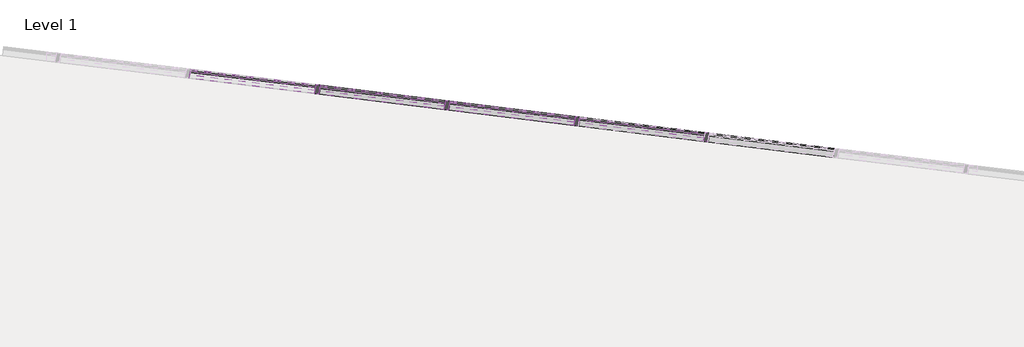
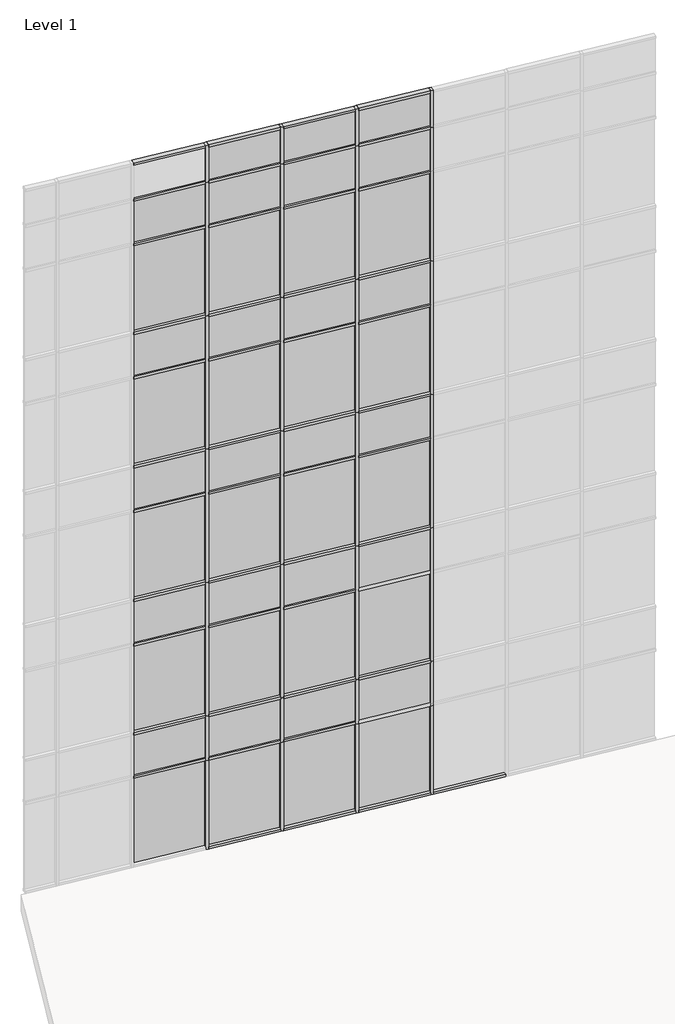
# One storey, part 16 of 23: 74 members, 43 plates.
"""IFC4 building model written with IfcOpenShell, lengths in millimetres."""

from ifc_helpers import new_model, si_unit, origin, place, context, project, spatial, transform, mapped, element, save
from components import member_2b49869a, member_f92b8aa2, member_810865a4, member_f0fea5a5, member_6d5c3e5e, member_9764dd38, system_panel_glazed_14c75400, system_panel_solid_5dfe6f83, system_panel_solid_e25e2004, system_panel_solid_b7551183

model = new_model("IFC4")

# Units and contexts
model_context = context("Model", 3, world=origin())
ifc_project = project(units=[si_unit("LENGTHUNIT", "METRE", prefix="MILLI")], contexts=[model_context])

# Site, building, storey
site = spatial("IfcSite", under=ifc_project)
building = spatial("IfcBuilding", under=site)
storey = spatial("IfcBuildingStorey", under=building, Name="Level 1", Elevation=0.0)

# Members
placement = place(None, origin())
member_shape = member_2b49869a(model_context)
element("IfcMember", 1, ObjectType="Rectangular Mullion : 2.5\" x 5\" rectangular", at=placement, inside=storey, context=model_context, shape_type="MappedRepresentation", body=[
    mapped(member_shape, transform((-20221.8467741, 14354.2917535, 2438.4), x_axis=(0.9925461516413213, -0.12186934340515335, 0.0), y_axis=(-0.12186934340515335, -0.9925461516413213, 0.0), z_axis=(0.0, 0.0, -1.0))),
])
element("IfcMember", 2, ObjectType="Rectangular Mullion : 2.5\" x 5\" rectangular", at=placement, inside=storey, context=model_context, shape_type="MappedRepresentation", body=[
    mapped(member_shape, transform((-22037.0151762, 14577.1664087, 2438.4), x_axis=(0.9925461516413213, -0.12186934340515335, 0.0), y_axis=(-0.12186934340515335, -0.9925461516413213, 0.0), z_axis=(0.0, 0.0, -1.0))),
])
element("IfcMember", 3, ObjectType="Rectangular Mullion : 2.5\" x 5\" rectangular", at=placement, inside=storey, context=model_context, shape_type="MappedRepresentation", body=[
    mapped(member_shape, transform((-23852.1835783, 14800.0410639, 2438.4), x_axis=(0.9925461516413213, -0.12186934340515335, 0.0), y_axis=(-0.12186934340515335, -0.9925461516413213, 0.0), z_axis=(0.0, 0.0, -1.0))),
])
element("IfcMember", 4, ObjectType="Rectangular Mullion : 2.5\" x 5\" rectangular", at=placement, inside=storey, context=model_context, shape_type="MappedRepresentation", body=[
    mapped(member_shape, transform((-25667.3519804, 15022.9157192, 2438.4), x_axis=(0.9925461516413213, -0.12186934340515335, 0.0), y_axis=(-0.12186934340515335, -0.9925461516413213, 0.0), z_axis=(0.0, 0.0, -1.0))),
])
member_2_shape = member_f92b8aa2(model_context)
element("IfcMember", 5, ObjectType="Rectangular Mullion : 2.5\" x 5\" rectangular", at=placement, inside=storey, context=model_context, shape_type="MappedRepresentation", body=[
    mapped(member_2_shape, transform((-20221.8467741, 14354.2917535, 18288.0), x_axis=(0.9925461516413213, -0.12186934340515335, 0.0), y_axis=(-0.12186934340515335, -0.9925461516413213, 0.0), z_axis=(0.0, 0.0, -1.0))),
])
element("IfcMember", 6, ObjectType="Rectangular Mullion : 2.5\" x 5\" rectangular", at=placement, inside=storey, context=model_context, shape_type="MappedRepresentation", body=[
    mapped(member_2_shape, transform((-22037.0151762, 14577.1664087, 18288.0), x_axis=(0.9925461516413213, -0.12186934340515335, 0.0), y_axis=(-0.12186934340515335, -0.9925461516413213, 0.0), z_axis=(0.0, 0.0, -1.0))),
])
element("IfcMember", 7, ObjectType="Rectangular Mullion : 2.5\" x 5\" rectangular", at=placement, inside=storey, context=model_context, shape_type="MappedRepresentation", body=[
    mapped(member_2_shape, transform((-23852.1835783, 14800.0410639, 18288.0), x_axis=(0.9925461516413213, -0.12186934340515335, 0.0), y_axis=(-0.12186934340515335, -0.9925461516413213, 0.0), z_axis=(0.0, 0.0, -1.0))),
])
element("IfcMember", 8, ObjectType="Rectangular Mullion : 2.5\" x 5\" rectangular", at=placement, inside=storey, context=model_context, shape_type="MappedRepresentation", body=[
    mapped(member_2_shape, transform((-25667.3519804, 15022.9157192, 18288.0), x_axis=(0.9925461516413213, -0.12186934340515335, 0.0), y_axis=(-0.12186934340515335, -0.9925461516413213, 0.0), z_axis=(0.0, 0.0, -1.0))),
])
member_3_shape = member_810865a4(model_context)
element("IfcMember", 9, ObjectType="Rectangular Mullion : 2.5\" x 5\" rectangular", at=placement, inside=storey, context=model_context, shape_type="MappedRepresentation", body=[
    mapped(member_3_shape, transform((-20221.8467741, 14354.2917535, 14630.4), x_axis=(0.9925461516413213, -0.12186934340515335, 0.0), y_axis=(-0.12186934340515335, -0.9925461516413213, 0.0), z_axis=(0.0, 0.0, -1.0))),
])
element("IfcMember", 10, ObjectType="Rectangular Mullion : 2.5\" x 5\" rectangular", at=placement, inside=storey, context=model_context, shape_type="MappedRepresentation", body=[
    mapped(member_3_shape, transform((-20221.8467741, 14354.2917535, 10972.8), x_axis=(0.9925461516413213, -0.12186934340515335, 0.0), y_axis=(-0.12186934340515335, -0.9925461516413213, 0.0), z_axis=(0.0, 0.0, -1.0))),
])
element("IfcMember", 11, ObjectType="Rectangular Mullion : 2.5\" x 5\" rectangular", at=placement, inside=storey, context=model_context, shape_type="MappedRepresentation", body=[
    mapped(member_3_shape, transform((-20221.8467741, 14354.2917535, 7315.2), x_axis=(0.9925461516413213, -0.12186934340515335, 0.0), y_axis=(-0.12186934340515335, -0.9925461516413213, 0.0), z_axis=(0.0, 0.0, -1.0))),
])
element("IfcMember", 12, ObjectType="Rectangular Mullion : 2.5\" x 5\" rectangular", at=placement, inside=storey, context=model_context, shape_type="MappedRepresentation", body=[
    mapped(member_3_shape, transform((-20221.8467741, 14354.2917535, 3657.6), x_axis=(0.9925461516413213, -0.12186934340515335, 0.0), y_axis=(-0.12186934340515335, -0.9925461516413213, 0.0), z_axis=(0.0, 0.0, -1.0))),
])
element("IfcMember", 13, ObjectType="Rectangular Mullion : 2.5\" x 5\" rectangular", at=placement, inside=storey, context=model_context, shape_type="MappedRepresentation", body=[
    mapped(member_3_shape, transform((-22037.0151762, 14577.1664087, 14630.4), x_axis=(0.9925461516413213, -0.12186934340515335, 0.0), y_axis=(-0.12186934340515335, -0.9925461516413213, 0.0), z_axis=(0.0, 0.0, -1.0))),
])
element("IfcMember", 14, ObjectType="Rectangular Mullion : 2.5\" x 5\" rectangular", at=placement, inside=storey, context=model_context, shape_type="MappedRepresentation", body=[
    mapped(member_3_shape, transform((-22037.0151762, 14577.1664087, 10972.8), x_axis=(0.9925461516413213, -0.12186934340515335, 0.0), y_axis=(-0.12186934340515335, -0.9925461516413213, 0.0), z_axis=(0.0, 0.0, -1.0))),
])
element("IfcMember", 15, ObjectType="Rectangular Mullion : 2.5\" x 5\" rectangular", at=placement, inside=storey, context=model_context, shape_type="MappedRepresentation", body=[
    mapped(member_3_shape, transform((-22037.0151762, 14577.1664087, 7315.2), x_axis=(0.9925461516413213, -0.12186934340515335, 0.0), y_axis=(-0.12186934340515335, -0.9925461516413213, 0.0), z_axis=(0.0, 0.0, -1.0))),
])
element("IfcMember", 16, ObjectType="Rectangular Mullion : 2.5\" x 5\" rectangular", at=placement, inside=storey, context=model_context, shape_type="MappedRepresentation", body=[
    mapped(member_3_shape, transform((-22037.0151762, 14577.1664087, 3657.6), x_axis=(0.9925461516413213, -0.12186934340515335, 0.0), y_axis=(-0.12186934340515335, -0.9925461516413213, 0.0), z_axis=(0.0, 0.0, -1.0))),
])
element("IfcMember", 17, ObjectType="Rectangular Mullion : 2.5\" x 5\" rectangular", at=placement, inside=storey, context=model_context, shape_type="MappedRepresentation", body=[
    mapped(member_3_shape, transform((-23852.1835783, 14800.0410639, 14630.4), x_axis=(0.9925461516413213, -0.12186934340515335, 0.0), y_axis=(-0.12186934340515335, -0.9925461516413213, 0.0), z_axis=(0.0, 0.0, -1.0))),
])
element("IfcMember", 18, ObjectType="Rectangular Mullion : 2.5\" x 5\" rectangular", at=placement, inside=storey, context=model_context, shape_type="MappedRepresentation", body=[
    mapped(member_3_shape, transform((-23852.1835783, 14800.0410639, 10972.8), x_axis=(0.9925461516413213, -0.12186934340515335, 0.0), y_axis=(-0.12186934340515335, -0.9925461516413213, 0.0), z_axis=(0.0, 0.0, -1.0))),
])
element("IfcMember", 19, ObjectType="Rectangular Mullion : 2.5\" x 5\" rectangular", at=placement, inside=storey, context=model_context, shape_type="MappedRepresentation", body=[
    mapped(member_3_shape, transform((-23852.1835783, 14800.0410639, 7315.2), x_axis=(0.9925461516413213, -0.12186934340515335, 0.0), y_axis=(-0.12186934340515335, -0.9925461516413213, 0.0), z_axis=(0.0, 0.0, -1.0))),
])
element("IfcMember", 20, ObjectType="Rectangular Mullion : 2.5\" x 5\" rectangular", at=placement, inside=storey, context=model_context, shape_type="MappedRepresentation", body=[
    mapped(member_3_shape, transform((-23852.1835783, 14800.0410639, 3657.6), x_axis=(0.9925461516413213, -0.12186934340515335, 0.0), y_axis=(-0.12186934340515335, -0.9925461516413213, 0.0), z_axis=(0.0, 0.0, -1.0))),
])
element("IfcMember", 21, ObjectType="Rectangular Mullion : 2.5\" x 5\" rectangular", at=placement, inside=storey, context=model_context, shape_type="MappedRepresentation", body=[
    mapped(member_3_shape, transform((-25667.3519804, 15022.9157192, 14630.4), x_axis=(0.9925461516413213, -0.12186934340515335, 0.0), y_axis=(-0.12186934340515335, -0.9925461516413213, 0.0), z_axis=(0.0, 0.0, -1.0))),
])
element("IfcMember", 22, ObjectType="Rectangular Mullion : 2.5\" x 5\" rectangular", at=placement, inside=storey, context=model_context, shape_type="MappedRepresentation", body=[
    mapped(member_3_shape, transform((-25667.3519804, 15022.9157192, 10972.8), x_axis=(0.9925461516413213, -0.12186934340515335, 0.0), y_axis=(-0.12186934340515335, -0.9925461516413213, 0.0), z_axis=(0.0, 0.0, -1.0))),
])
element("IfcMember", 23, ObjectType="Rectangular Mullion : 2.5\" x 5\" rectangular", at=placement, inside=storey, context=model_context, shape_type="MappedRepresentation", body=[
    mapped(member_3_shape, transform((-25667.3519804, 15022.9157192, 7315.2), x_axis=(0.9925461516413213, -0.12186934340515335, 0.0), y_axis=(-0.12186934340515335, -0.9925461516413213, 0.0), z_axis=(0.0, 0.0, -1.0))),
])
element("IfcMember", 24, ObjectType="Rectangular Mullion : 2.5\" x 5\" rectangular", at=placement, inside=storey, context=model_context, shape_type="MappedRepresentation", body=[
    mapped(member_3_shape, transform((-25667.3519804, 15022.9157192, 3657.6), x_axis=(0.9925461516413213, -0.12186934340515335, 0.0), y_axis=(-0.12186934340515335, -0.9925461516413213, 0.0), z_axis=(0.0, 0.0, -1.0))),
])
member_4_shape = member_f0fea5a5(model_context)
element("IfcMember", 25, ObjectType="Rectangular Mullion : 2.5\" x 5\" rectangular", at=placement, inside=storey, context=model_context, shape_type="MappedRepresentation", body=[
    mapped(member_4_shape, transform((-22037.0151762, 14577.1664087, 0.0), x_axis=(0.9925461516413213, -0.12186934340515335, 0.0), y_axis=(-0.12186934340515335, -0.9925461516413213, 0.0), z_axis=(0.0, 0.0, -1.0))),
])
element("IfcMember", 26, ObjectType="Rectangular Mullion : 2.5\" x 5\" rectangular", at=placement, inside=storey, context=model_context, shape_type="MappedRepresentation", body=[
    mapped(member_4_shape, transform((-23852.1835783, 14800.0410639, 0.0), x_axis=(0.9925461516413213, -0.12186934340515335, 0.0), y_axis=(-0.12186934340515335, -0.9925461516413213, 0.0), z_axis=(0.0, 0.0, -1.0))),
])
element("IfcMember", 27, ObjectType="Rectangular Mullion : 2.5\" x 5\" rectangular", at=placement, inside=storey, context=model_context, shape_type="MappedRepresentation", body=[
    mapped(member_4_shape, transform((-25667.3519804, 15022.9157192, 0.0), x_axis=(0.9925461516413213, -0.12186934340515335, 0.0), y_axis=(-0.12186934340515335, -0.9925461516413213, 0.0), z_axis=(0.0, 0.0, -1.0))),
])
element("IfcMember", 28, ObjectType="Rectangular Mullion : 2.5\" x 5\" rectangular", at=placement, inside=storey, context=model_context, shape_type="MappedRepresentation", body=[
    mapped(member_4_shape, transform((-20221.8467741, 14354.2917535, 0.0), x_axis=(0.9925461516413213, -0.12186934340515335, 0.0), y_axis=(-0.12186934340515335, -0.9925461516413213, 0.0), z_axis=(0.0, 0.0, -1.0))),
])
member_5_shape = member_6d5c3e5e(model_context)
element("IfcMember", 29, ObjectType="Rectangular Mullion : 2.5\" x 5\" rectangular", at=placement, inside=storey, context=model_context, shape_type="MappedRepresentation", body=[
    mapped(member_5_shape, transform((-20253.3601144, 14358.1611052, 19304.0), x_axis=(0.0, 0.0, 1.0), y_axis=(-0.12186934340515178, -0.9925461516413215, 0.0), z_axis=(0.9925461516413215, -0.12186934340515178, 0.0))),
])
element("IfcMember", 30, ObjectType="Rectangular Mullion : 2.5\" x 5\" rectangular", at=placement, inside=storey, context=model_context, shape_type="MappedRepresentation", body=[
    mapped(member_5_shape, transform((-22068.5285165, 14581.0357604, 19304.0), x_axis=(0.0, 0.0, 1.0), y_axis=(-0.12186934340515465, -0.9925461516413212, 0.0), z_axis=(0.9925461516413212, -0.12186934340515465, 0.0))),
])
element("IfcMember", 31, ObjectType="Rectangular Mullion : 2.5\" x 5\" rectangular", at=placement, inside=storey, context=model_context, shape_type="MappedRepresentation", body=[
    mapped(member_5_shape, transform((-23883.6969186, 14803.9104156, 19304.0), x_axis=(0.0, 0.0, 1.0), y_axis=(-0.12186934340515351, -0.9925461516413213, 0.0), z_axis=(0.9925461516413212, -0.1218693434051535, 0.0))),
])
element("IfcMember", 32, ObjectType="Rectangular Mullion : 2.5\" x 5\" rectangular", at=placement, inside=storey, context=model_context, shape_type="MappedRepresentation", body=[
    mapped(member_5_shape, transform((-25698.8653208, 15026.7850708, 19304.0), x_axis=(0.0, 0.0, 1.0), y_axis=(-0.12186934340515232, -0.9925461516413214, 0.0), z_axis=(0.9925461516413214, -0.12186934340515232, 0.0))),
])
member_6_shape = member_9764dd38(model_context)
element("IfcMember", 33, ObjectType="Rectangular Mullion : 2.5\" x 5\" rectangular", at=placement, inside=storey, context=model_context, shape_type="MappedRepresentation", body=[
    mapped(member_6_shape, transform((-20253.3601144, 14358.1611052, 17068.8), x_axis=(0.0, 0.0, 1.0), y_axis=(-0.12186934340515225, -0.9925461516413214, 0.0), z_axis=(0.9925461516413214, -0.12186934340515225, 0.0))),
])
element("IfcMember", 34, ObjectType="Rectangular Mullion : 2.5\" x 5\" rectangular", at=placement, inside=storey, context=model_context, shape_type="MappedRepresentation", body=[
    mapped(member_6_shape, transform((-22068.5285165, 14581.0357604, 17068.8), x_axis=(0.0, 0.0, 1.0), y_axis=(-0.12186934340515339, -0.9925461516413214, 0.0), z_axis=(0.9925461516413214, -0.12186934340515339, 0.0))),
])
element("IfcMember", 35, ObjectType="Rectangular Mullion : 2.5\" x 5\" rectangular", at=placement, inside=storey, context=model_context, shape_type="MappedRepresentation", body=[
    mapped(member_6_shape, transform((-23883.6969186, 14803.9104156, 17068.8), x_axis=(0.0, 0.0, 1.0), y_axis=(-0.12186934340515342, -0.9925461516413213, 0.0), z_axis=(0.9925461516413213, -0.12186934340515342, 0.0))),
])
element("IfcMember", 36, ObjectType="Rectangular Mullion : 2.5\" x 5\" rectangular", at=placement, inside=storey, context=model_context, shape_type="MappedRepresentation", body=[
    mapped(member_6_shape, transform((-25698.8653208, 15026.7850708, 17068.8), x_axis=(0.0, 0.0, 1.0), y_axis=(-0.12186934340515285, -0.9925461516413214, 0.0), z_axis=(0.9925461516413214, -0.12186934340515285, 0.0))),
])
element("IfcMember", 37, ObjectType="Rectangular Mullion : 2.5\" x 5\" rectangular", at=placement, inside=storey, context=model_context, shape_type="MappedRepresentation", body=[
    mapped(member_6_shape, transform((-20253.3601144, 14358.1611052, 13411.2), x_axis=(0.0, 0.0, 1.0), y_axis=(-0.12186934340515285, -0.9925461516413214, 0.0), z_axis=(0.9925461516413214, -0.12186934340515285, 0.0))),
])
element("IfcMember", 38, ObjectType="Rectangular Mullion : 2.5\" x 5\" rectangular", at=placement, inside=storey, context=model_context, shape_type="MappedRepresentation", body=[
    mapped(member_6_shape, transform((-22068.5285165, 14581.0357604, 13411.2), x_axis=(0.0, 0.0, 1.0), y_axis=(-0.12186934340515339, -0.9925461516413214, 0.0), z_axis=(0.9925461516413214, -0.12186934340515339, 0.0))),
])
element("IfcMember", 39, ObjectType="Rectangular Mullion : 2.5\" x 5\" rectangular", at=placement, inside=storey, context=model_context, shape_type="MappedRepresentation", body=[
    mapped(member_6_shape, transform((-23883.6969186, 14803.9104156, 13411.2), x_axis=(0.0, 0.0, 1.0), y_axis=(-0.12186934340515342, -0.9925461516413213, 0.0), z_axis=(0.9925461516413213, -0.12186934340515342, 0.0))),
])
element("IfcMember", 40, ObjectType="Rectangular Mullion : 2.5\" x 5\" rectangular", at=placement, inside=storey, context=model_context, shape_type="MappedRepresentation", body=[
    mapped(member_6_shape, transform((-25698.8653208, 15026.7850708, 13411.2), x_axis=(0.0, 0.0, 1.0), y_axis=(-0.12186934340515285, -0.9925461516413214, 0.0), z_axis=(0.9925461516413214, -0.12186934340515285, 0.0))),
])
element("IfcMember", 41, ObjectType="Rectangular Mullion : 2.5\" x 5\" rectangular", at=placement, inside=storey, context=model_context, shape_type="MappedRepresentation", body=[
    mapped(member_6_shape, transform((-20253.3601144, 14358.1611052, 9753.6), x_axis=(0.0, 0.0, 1.0), y_axis=(-0.12186934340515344, -0.9925461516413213, 0.0), z_axis=(0.9925461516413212, -0.12186934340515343, 0.0))),
])
element("IfcMember", 42, ObjectType="Rectangular Mullion : 2.5\" x 5\" rectangular", at=placement, inside=storey, context=model_context, shape_type="MappedRepresentation", body=[
    mapped(member_6_shape, transform((-22068.5285165, 14581.0357604, 9753.6), x_axis=(0.0, 0.0, 1.0), y_axis=(-0.12186934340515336, -0.9925461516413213, 0.0), z_axis=(0.9925461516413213, -0.12186934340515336, 0.0))),
])
element("IfcMember", 43, ObjectType="Rectangular Mullion : 2.5\" x 5\" rectangular", at=placement, inside=storey, context=model_context, shape_type="MappedRepresentation", body=[
    mapped(member_6_shape, transform((-23883.6969186, 14803.9104156, 9753.6), x_axis=(0.0, 0.0, 1.0), y_axis=(-0.12186934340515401, -0.9925461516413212, 0.0), z_axis=(0.9925461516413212, -0.12186934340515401, 0.0))),
])
element("IfcMember", 44, ObjectType="Rectangular Mullion : 2.5\" x 5\" rectangular", at=placement, inside=storey, context=model_context, shape_type="MappedRepresentation", body=[
    mapped(member_6_shape, transform((-25698.8653208, 15026.7850708, 9753.6), x_axis=(0.0, 0.0, 1.0), y_axis=(-0.12186934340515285, -0.9925461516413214, 0.0), z_axis=(0.9925461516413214, -0.12186934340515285, 0.0))),
])
element("IfcMember", 45, ObjectType="Rectangular Mullion : 2.5\" x 5\" rectangular", at=placement, inside=storey, context=model_context, shape_type="MappedRepresentation", body=[
    mapped(member_6_shape, transform((-22068.5285165, 14581.0357604, 6096.0), x_axis=(0.0, 0.0, 1.0), y_axis=(-0.12186934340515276, -0.9925461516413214, 0.0), z_axis=(0.9925461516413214, -0.12186934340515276, 0.0))),
])
element("IfcMember", 46, ObjectType="Rectangular Mullion : 2.5\" x 5\" rectangular", at=placement, inside=storey, context=model_context, shape_type="MappedRepresentation", body=[
    mapped(member_6_shape, transform((-23883.6969186, 14803.9104156, 6096.0), x_axis=(0.0, 0.0, 1.0), y_axis=(-0.12186934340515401, -0.9925461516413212, 0.0), z_axis=(0.9925461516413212, -0.12186934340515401, 0.0))),
])
element("IfcMember", 47, ObjectType="Rectangular Mullion : 2.5\" x 5\" rectangular", at=placement, inside=storey, context=model_context, shape_type="MappedRepresentation", body=[
    mapped(member_6_shape, transform((-25698.8653208, 15026.7850708, 6096.0), x_axis=(0.0, 0.0, 1.0), y_axis=(-0.12186934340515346, -0.9925461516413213, 0.0), z_axis=(0.9925461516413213, -0.12186934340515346, 0.0))),
])
element("IfcMember", 48, ObjectType="Rectangular Mullion : 2.5\" x 5\" rectangular", at=placement, inside=storey, context=model_context, shape_type="MappedRepresentation", body=[
    mapped(member_6_shape, transform((-22068.5285165, 14581.0357604, 2470.15), x_axis=(0.0, 0.0, 1.0), y_axis=(-0.12186934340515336, -0.9925461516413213, 0.0), z_axis=(0.9925461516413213, -0.12186934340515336, 0.0))),
])
element("IfcMember", 49, ObjectType="Rectangular Mullion : 2.5\" x 5\" rectangular", at=placement, inside=storey, context=model_context, shape_type="MappedRepresentation", body=[
    mapped(member_6_shape, transform((-23883.6969186, 14803.9104156, 2470.15), x_axis=(0.0, 0.0, 1.0), y_axis=(-0.12186934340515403, -0.9925461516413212, 0.0), z_axis=(0.9925461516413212, -0.12186934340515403, 0.0))),
])
element("IfcMember", 50, ObjectType="Rectangular Mullion : 2.5\" x 5\" rectangular", at=placement, inside=storey, context=model_context, shape_type="MappedRepresentation", body=[
    mapped(member_6_shape, transform((-25698.8653208, 15026.7850708, 2470.15), x_axis=(0.0, 0.0, 1.0), y_axis=(-0.12186934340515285, -0.9925461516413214, 0.0), z_axis=(0.9925461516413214, -0.12186934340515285, 0.0))),
])
element("IfcMember", 51, ObjectType="Rectangular Mullion : 2.5\" x 5\" rectangular", at=placement, inside=storey, context=model_context, shape_type="MappedRepresentation", body=[
    mapped(member_5_shape, transform((-20190.3334338, 14350.4224018, 0.0), x_axis=(0.0, 0.0, -1.0), y_axis=(-0.12186934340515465, -0.9925461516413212, 0.0), z_axis=(-0.9925461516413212, 0.12186934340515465, 0.0))),
])
element("IfcMember", 52, ObjectType="Rectangular Mullion : 2.5\" x 5\" rectangular", at=placement, inside=storey, context=model_context, shape_type="MappedRepresentation", body=[
    mapped(member_5_shape, transform((-22005.5018359, 14573.2970571, 0.0), x_axis=(0.0, 0.0, -1.0), y_axis=(-0.12186934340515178, -0.9925461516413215, 0.0), z_axis=(-0.9925461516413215, 0.12186934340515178, 0.0))),
])
element("IfcMember", 53, ObjectType="Rectangular Mullion : 2.5\" x 5\" rectangular", at=placement, inside=storey, context=model_context, shape_type="MappedRepresentation", body=[
    mapped(member_5_shape, transform((-23820.670238, 14796.1717123, 0.0), x_axis=(0.0, 0.0, -1.0), y_axis=(-0.12186934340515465, -0.9925461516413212, 0.0), z_axis=(-0.9925461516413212, 0.12186934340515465, 0.0))),
])
element("IfcMember", 54, ObjectType="Rectangular Mullion : 2.5\" x 5\" rectangular", at=placement, inside=storey, context=model_context, shape_type="MappedRepresentation", body=[
    mapped(member_5_shape, transform((-25635.8386401, 15019.0463675, 0.0), x_axis=(0.0, 0.0, -1.0), y_axis=(-0.12186934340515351, -0.9925461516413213, 0.0), z_axis=(-0.9925461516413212, 0.1218693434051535, 0.0))),
])
element("IfcMember", 55, ObjectType="Rectangular Mullion : 2.5\" x 5\" rectangular", at=placement, inside=storey, context=model_context, shape_type="MappedRepresentation", body=[
    mapped(member_6_shape, transform((-22068.5285165, 14581.0357604, 3657.6), x_axis=(0.0, 0.0, 1.0), y_axis=(-0.12186934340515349, -0.9925461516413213, 0.0), z_axis=(0.9925461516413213, -0.12186934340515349, 0.0))),
])
element("IfcMember", 56, ObjectType="Rectangular Mullion : 2.5\" x 5\" rectangular", at=placement, inside=storey, context=model_context, shape_type="MappedRepresentation", body=[
    mapped(member_6_shape, transform((-20253.3601144, 14358.1611052, 3657.6), x_axis=(0.0, 0.0, 1.0), y_axis=(-0.12186934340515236, -0.9925461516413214, 0.0), z_axis=(0.9925461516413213, -0.12186934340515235, 0.0))),
])
element("IfcMember", 57, ObjectType="Rectangular Mullion : 2.5\" x 5\" rectangular", at=placement, inside=storey, context=model_context, shape_type="MappedRepresentation", body=[
    mapped(member_6_shape, transform((-23883.6969186, 14803.9104156, 3657.6), x_axis=(0.0, 0.0, 1.0), y_axis=(-0.12186934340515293, -0.9925461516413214, 0.0), z_axis=(0.9925461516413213, -0.12186934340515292, 0.0))),
])
element("IfcMember", 58, ObjectType="Rectangular Mullion : 2.5\" x 5\" rectangular", at=placement, inside=storey, context=model_context, shape_type="MappedRepresentation", body=[
    mapped(member_6_shape, transform((-20253.3601144, 14358.1611052, 10972.8), x_axis=(0.0, 0.0, 1.0), y_axis=(-0.12186934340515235, -0.9925461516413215, 0.0), z_axis=(0.9925461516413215, -0.12186934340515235, 0.0))),
])
element("IfcMember", 59, ObjectType="Rectangular Mullion : 2.5\" x 5\" rectangular", at=placement, inside=storey, context=model_context, shape_type="MappedRepresentation", body=[
    mapped(member_6_shape, transform((-22068.5285165, 14581.0357604, 10972.8), x_axis=(0.0, 0.0, 1.0), y_axis=(-0.12186934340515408, -0.9925461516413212, 0.0), z_axis=(0.9925461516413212, -0.12186934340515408, 0.0))),
])
element("IfcMember", 60, ObjectType="Rectangular Mullion : 2.5\" x 5\" rectangular", at=placement, inside=storey, context=model_context, shape_type="MappedRepresentation", body=[
    mapped(member_6_shape, transform((-23883.6969186, 14803.9104156, 10972.8), x_axis=(0.0, 0.0, 1.0), y_axis=(-0.12186934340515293, -0.9925461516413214, 0.0), z_axis=(0.9925461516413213, -0.12186934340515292, 0.0))),
])
element("IfcMember", 61, ObjectType="Rectangular Mullion : 2.5\" x 5\" rectangular", at=placement, inside=storey, context=model_context, shape_type="MappedRepresentation", body=[
    mapped(member_6_shape, transform((-25698.8653208, 15026.7850708, 10972.8), x_axis=(0.0, 0.0, 1.0), y_axis=(-0.12186934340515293, -0.9925461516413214, 0.0), z_axis=(0.9925461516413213, -0.12186934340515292, 0.0))),
])
element("IfcMember", 62, ObjectType="Rectangular Mullion : 2.5\" x 5\" rectangular", at=placement, inside=storey, context=model_context, shape_type="MappedRepresentation", body=[
    mapped(member_6_shape, transform((-20253.3601144, 14358.1611052, 7315.2), x_axis=(0.0, 0.0, 1.0), y_axis=(-0.12186934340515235, -0.9925461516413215, 0.0), z_axis=(0.9925461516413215, -0.12186934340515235, 0.0))),
])
element("IfcMember", 63, ObjectType="Rectangular Mullion : 2.5\" x 5\" rectangular", at=placement, inside=storey, context=model_context, shape_type="MappedRepresentation", body=[
    mapped(member_6_shape, transform((-22068.5285165, 14581.0357604, 7315.2), x_axis=(0.0, 0.0, 1.0), y_axis=(-0.12186934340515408, -0.9925461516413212, 0.0), z_axis=(0.9925461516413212, -0.12186934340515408, 0.0))),
])
element("IfcMember", 64, ObjectType="Rectangular Mullion : 2.5\" x 5\" rectangular", at=placement, inside=storey, context=model_context, shape_type="MappedRepresentation", body=[
    mapped(member_6_shape, transform((-23883.6969186, 14803.9104156, 7315.2), x_axis=(0.0, 0.0, 1.0), y_axis=(-0.12186934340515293, -0.9925461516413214, 0.0), z_axis=(0.9925461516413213, -0.12186934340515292, 0.0))),
])
element("IfcMember", 65, ObjectType="Rectangular Mullion : 2.5\" x 5\" rectangular", at=placement, inside=storey, context=model_context, shape_type="MappedRepresentation", body=[
    mapped(member_6_shape, transform((-25698.8653208, 15026.7850708, 7315.2), x_axis=(0.0, 0.0, 1.0), y_axis=(-0.12186934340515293, -0.9925461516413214, 0.0), z_axis=(0.9925461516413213, -0.12186934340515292, 0.0))),
])
element("IfcMember", 66, ObjectType="Rectangular Mullion : 2.5\" x 5\" rectangular", at=placement, inside=storey, context=model_context, shape_type="MappedRepresentation", body=[
    mapped(member_6_shape, transform((-20253.3601144, 14358.1611052, 18288.0), x_axis=(0.0, 0.0, 1.0), y_axis=(-0.12186934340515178, -0.9925461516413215, 0.0), z_axis=(0.9925461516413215, -0.12186934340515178, 0.0))),
])
element("IfcMember", 67, ObjectType="Rectangular Mullion : 2.5\" x 5\" rectangular", at=placement, inside=storey, context=model_context, shape_type="MappedRepresentation", body=[
    mapped(member_6_shape, transform((-22068.5285165, 14581.0357604, 18288.0), x_axis=(0.0, 0.0, 1.0), y_axis=(-0.12186934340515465, -0.9925461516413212, 0.0), z_axis=(0.9925461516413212, -0.12186934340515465, 0.0))),
])
element("IfcMember", 68, ObjectType="Rectangular Mullion : 2.5\" x 5\" rectangular", at=placement, inside=storey, context=model_context, shape_type="MappedRepresentation", body=[
    mapped(member_6_shape, transform((-23883.6969186, 14803.9104156, 18288.0), x_axis=(0.0, 0.0, 1.0), y_axis=(-0.12186934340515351, -0.9925461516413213, 0.0), z_axis=(0.9925461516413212, -0.1218693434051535, 0.0))),
])
element("IfcMember", 69, ObjectType="Rectangular Mullion : 2.5\" x 5\" rectangular", at=placement, inside=storey, context=model_context, shape_type="MappedRepresentation", body=[
    mapped(member_6_shape, transform((-25698.8653208, 15026.7850708, 18288.0), x_axis=(0.0, 0.0, 1.0), y_axis=(-0.12186934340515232, -0.9925461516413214, 0.0), z_axis=(0.9925461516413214, -0.12186934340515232, 0.0))),
])
element("IfcMember", 70, ObjectType="Rectangular Mullion : 2.5\" x 5\" rectangular", at=placement, inside=storey, context=model_context, shape_type="MappedRepresentation", body=[
    mapped(member_6_shape, transform((-20253.3601144, 14358.1611052, 14630.4), x_axis=(0.0, 0.0, 1.0), y_axis=(-0.12186934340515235, -0.9925461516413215, 0.0), z_axis=(0.9925461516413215, -0.12186934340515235, 0.0))),
])
element("IfcMember", 71, ObjectType="Rectangular Mullion : 2.5\" x 5\" rectangular", at=placement, inside=storey, context=model_context, shape_type="MappedRepresentation", body=[
    mapped(member_6_shape, transform((-22068.5285165, 14581.0357604, 14630.4), x_axis=(0.0, 0.0, 1.0), y_axis=(-0.12186934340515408, -0.9925461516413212, 0.0), z_axis=(0.9925461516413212, -0.12186934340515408, 0.0))),
])
element("IfcMember", 72, ObjectType="Rectangular Mullion : 2.5\" x 5\" rectangular", at=placement, inside=storey, context=model_context, shape_type="MappedRepresentation", body=[
    mapped(member_6_shape, transform((-23883.6969186, 14803.9104156, 14630.4), x_axis=(0.0, 0.0, 1.0), y_axis=(-0.12186934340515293, -0.9925461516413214, 0.0), z_axis=(0.9925461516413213, -0.12186934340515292, 0.0))),
])
element("IfcMember", 73, ObjectType="Rectangular Mullion : 2.5\" x 5\" rectangular", at=placement, inside=storey, context=model_context, shape_type="MappedRepresentation", body=[
    mapped(member_6_shape, transform((-25698.8653208, 15026.7850708, 14630.4), x_axis=(0.0, 0.0, 1.0), y_axis=(-0.12186934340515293, -0.9925461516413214, 0.0), z_axis=(0.9925461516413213, -0.12186934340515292, 0.0))),
])
element("IfcMember", 74, ObjectType="Rectangular Mullion : 2.5\" x 5\" rectangular", at=placement, inside=storey, context=model_context, shape_type="MappedRepresentation", body=[
    mapped(member_6_shape, transform((-25698.8653208, 15026.7850708, 3657.6), x_axis=(0.0, 0.0, 1.0), y_axis=(-0.12186934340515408, -0.9925461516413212, 0.0), z_axis=(0.9925461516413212, -0.12186934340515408, 0.0))),
])

# Plates
system_panel_glazed_shape = system_panel_glazed_14c75400(model_context)
element("IfcPlate", 75, ObjectType="System Panel : Glazed", at=placement, inside=storey, context=model_context, shape_type="MappedRepresentation", body=[
    mapped(system_panel_glazed_shape, transform((-21129.4309751, 14465.7290811, 14662.15), x_axis=(0.9925461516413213, -0.12186934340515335, 0.0), y_axis=(0.12186934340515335, 0.9925461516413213, 0.0), z_axis=(0.0, 0.0, 1.0))),
])
element("IfcPlate", 76, ObjectType="System Panel : Glazed", at=placement, inside=storey, context=model_context, shape_type="MappedRepresentation", body=[
    mapped(system_panel_glazed_shape, transform((-22944.5993773, 14688.6037363, 14662.15), x_axis=(0.9925461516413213, -0.12186934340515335, 0.0), y_axis=(0.12186934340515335, 0.9925461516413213, 0.0), z_axis=(0.0, 0.0, 1.0))),
])
element("IfcPlate", 77, ObjectType="System Panel : Glazed", at=placement, inside=storey, context=model_context, shape_type="MappedRepresentation", body=[
    mapped(system_panel_glazed_shape, transform((-24759.7677794, 14911.4783915, 14662.15), x_axis=(0.9925461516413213, -0.12186934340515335, 0.0), y_axis=(0.12186934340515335, 0.9925461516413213, 0.0), z_axis=(0.0, 0.0, 1.0))),
])
element("IfcPlate", 78, ObjectType="System Panel : Glazed", at=placement, inside=storey, context=model_context, shape_type="MappedRepresentation", body=[
    mapped(system_panel_glazed_shape, transform((-26574.9361815, 15134.3530468, 14662.15), x_axis=(0.9925461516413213, -0.12186934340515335, 0.0), y_axis=(0.12186934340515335, 0.9925461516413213, 0.0), z_axis=(0.0, 0.0, 1.0))),
])
element("IfcPlate", 79, ObjectType="System Panel : Glazed", at=placement, inside=storey, context=model_context, shape_type="MappedRepresentation", body=[
    mapped(system_panel_glazed_shape, transform((-21129.4309751, 14465.7290811, 11004.55), x_axis=(0.9925461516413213, -0.12186934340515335, 0.0), y_axis=(0.12186934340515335, 0.9925461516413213, 0.0), z_axis=(0.0, 0.0, 1.0))),
])
element("IfcPlate", 80, ObjectType="System Panel : Glazed", at=placement, inside=storey, context=model_context, shape_type="MappedRepresentation", body=[
    mapped(system_panel_glazed_shape, transform((-22944.5993773, 14688.6037363, 11004.55), x_axis=(0.9925461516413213, -0.12186934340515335, 0.0), y_axis=(0.12186934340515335, 0.9925461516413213, 0.0), z_axis=(0.0, 0.0, 1.0))),
])
element("IfcPlate", 81, ObjectType="System Panel : Glazed", at=placement, inside=storey, context=model_context, shape_type="MappedRepresentation", body=[
    mapped(system_panel_glazed_shape, transform((-24759.7677794, 14911.4783915, 11004.55), x_axis=(0.9925461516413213, -0.12186934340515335, 0.0), y_axis=(0.12186934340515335, 0.9925461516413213, 0.0), z_axis=(0.0, 0.0, 1.0))),
])
element("IfcPlate", 82, ObjectType="System Panel : Glazed", at=placement, inside=storey, context=model_context, shape_type="MappedRepresentation", body=[
    mapped(system_panel_glazed_shape, transform((-26574.9361815, 15134.3530468, 11004.55), x_axis=(0.9925461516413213, -0.12186934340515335, 0.0), y_axis=(0.12186934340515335, 0.9925461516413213, 0.0), z_axis=(0.0, 0.0, 1.0))),
])
element("IfcPlate", 83, ObjectType="System Panel : Glazed", at=placement, inside=storey, context=model_context, shape_type="MappedRepresentation", body=[
    mapped(system_panel_glazed_shape, transform((-21129.4309751, 14465.7290811, 7346.95), x_axis=(0.9925461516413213, -0.12186934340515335, 0.0), y_axis=(0.12186934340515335, 0.9925461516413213, 0.0), z_axis=(0.0, 0.0, 1.0))),
])
element("IfcPlate", 84, ObjectType="System Panel : Glazed", at=placement, inside=storey, context=model_context, shape_type="MappedRepresentation", body=[
    mapped(system_panel_glazed_shape, transform((-22944.5993773, 14688.6037363, 7346.95), x_axis=(0.9925461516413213, -0.12186934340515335, 0.0), y_axis=(0.12186934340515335, 0.9925461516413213, 0.0), z_axis=(0.0, 0.0, 1.0))),
])
element("IfcPlate", 85, ObjectType="System Panel : Glazed", at=placement, inside=storey, context=model_context, shape_type="MappedRepresentation", body=[
    mapped(system_panel_glazed_shape, transform((-24759.7677794, 14911.4783915, 7346.95), x_axis=(0.9925461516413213, -0.12186934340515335, 0.0), y_axis=(0.12186934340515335, 0.9925461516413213, 0.0), z_axis=(0.0, 0.0, 1.0))),
])
element("IfcPlate", 86, ObjectType="System Panel : Glazed", at=placement, inside=storey, context=model_context, shape_type="MappedRepresentation", body=[
    mapped(system_panel_glazed_shape, transform((-26574.9361815, 15134.3530468, 7346.95), x_axis=(0.9925461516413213, -0.12186934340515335, 0.0), y_axis=(0.12186934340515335, 0.9925461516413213, 0.0), z_axis=(0.0, 0.0, 1.0))),
])
element("IfcPlate", 87, ObjectType="System Panel : Glazed", at=placement, inside=storey, context=model_context, shape_type="MappedRepresentation", body=[
    mapped(system_panel_glazed_shape, transform((-21129.4309751, 14465.7290811, 3689.35), x_axis=(0.9925461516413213, -0.12186934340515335, 0.0), y_axis=(0.12186934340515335, 0.9925461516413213, 0.0), z_axis=(0.0, 0.0, 1.0))),
])
element("IfcPlate", 88, ObjectType="System Panel : Glazed", at=placement, inside=storey, context=model_context, shape_type="MappedRepresentation", body=[
    mapped(system_panel_glazed_shape, transform((-22944.5993773, 14688.6037363, 3689.35), x_axis=(0.9925461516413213, -0.12186934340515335, 0.0), y_axis=(0.12186934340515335, 0.9925461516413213, 0.0), z_axis=(0.0, 0.0, 1.0))),
])
element("IfcPlate", 89, ObjectType="System Panel : Glazed", at=placement, inside=storey, context=model_context, shape_type="MappedRepresentation", body=[
    mapped(system_panel_glazed_shape, transform((-24759.7677794, 14911.4783915, 3689.35), x_axis=(0.9925461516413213, -0.12186934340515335, 0.0), y_axis=(0.12186934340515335, 0.9925461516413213, 0.0), z_axis=(0.0, 0.0, 1.0))),
])
element("IfcPlate", 90, ObjectType="System Panel : Glazed", at=placement, inside=storey, context=model_context, shape_type="MappedRepresentation", body=[
    mapped(system_panel_glazed_shape, transform((-26574.9361815, 15134.3530468, 3689.35), x_axis=(0.9925461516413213, -0.12186934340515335, 0.0), y_axis=(0.12186934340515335, 0.9925461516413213, 0.0), z_axis=(0.0, 0.0, 1.0))),
])
element("IfcPlate", 91, ObjectType="System Panel : Glazed", at=placement, inside=storey, context=model_context, shape_type="MappedRepresentation", body=[
    mapped(system_panel_glazed_shape, transform((-21129.4309751, 14465.7290811, 63.5), x_axis=(0.9925461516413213, -0.12186934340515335, 0.0), y_axis=(0.12186934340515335, 0.9925461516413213, 0.0), z_axis=(0.0, 0.0, 1.0))),
])
element("IfcPlate", 92, ObjectType="System Panel : Glazed", at=placement, inside=storey, context=model_context, shape_type="MappedRepresentation", body=[
    mapped(system_panel_glazed_shape, transform((-22944.5993773, 14688.6037363, 63.5), x_axis=(0.9925461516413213, -0.12186934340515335, 0.0), y_axis=(0.12186934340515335, 0.9925461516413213, 0.0), z_axis=(0.0, 0.0, 1.0))),
])
element("IfcPlate", 93, ObjectType="System Panel : Glazed", at=placement, inside=storey, context=model_context, shape_type="MappedRepresentation", body=[
    mapped(system_panel_glazed_shape, transform((-24759.7677794, 14911.4783915, 63.5), x_axis=(0.9925461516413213, -0.12186934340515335, 0.0), y_axis=(0.12186934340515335, 0.9925461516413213, 0.0), z_axis=(0.0, 0.0, 1.0))),
])
element("IfcPlate", 94, ObjectType="System Panel : Glazed", at=placement, inside=storey, context=model_context, shape_type="MappedRepresentation", body=[
    mapped(system_panel_glazed_shape, transform((-26574.9361815, 15134.3530468, 63.5), x_axis=(0.9925461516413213, -0.12186934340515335, 0.0), y_axis=(0.12186934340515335, 0.9925461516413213, 0.0), z_axis=(0.0, 0.0, 1.0))),
])
system_panel_solid_shape = system_panel_solid_5dfe6f83(model_context)
element("IfcPlate", 95, ObjectType="System Panel : Solid", at=placement, inside=storey, context=model_context, shape_type="MappedRepresentation", body=[
    mapped(system_panel_solid_shape, transform((-24759.7677794, 14911.4783915, 18319.75), x_axis=(0.9925461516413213, -0.12186934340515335, 0.0), y_axis=(0.12186934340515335, 0.9925461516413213, 0.0), z_axis=(0.0, 0.0, 1.0))),
])
element("IfcPlate", 96, ObjectType="System Panel : Solid", at=placement, inside=storey, context=model_context, shape_type="MappedRepresentation", body=[
    mapped(system_panel_solid_shape, transform((-22944.5993773, 14688.6037363, 18319.75), x_axis=(0.9925461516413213, -0.12186934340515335, 0.0), y_axis=(0.12186934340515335, 0.9925461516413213, 0.0), z_axis=(0.0, 0.0, 1.0))),
])
element("IfcPlate", 97, ObjectType="System Panel : Solid", at=placement, inside=storey, context=model_context, shape_type="MappedRepresentation", body=[
    mapped(system_panel_solid_shape, transform((-21129.4309751, 14465.7290811, 18319.75), x_axis=(0.9925461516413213, -0.12186934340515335, 0.0), y_axis=(0.12186934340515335, 0.9925461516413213, 0.0), z_axis=(0.0, 0.0, 1.0))),
])
system_panel_solid_2_shape = system_panel_solid_e25e2004(model_context)
element("IfcPlate", 98, ObjectType="System Panel : Solid", at=placement, inside=storey, context=model_context, shape_type="MappedRepresentation", body=[
    mapped(system_panel_solid_2_shape, transform((-21129.4309751, 14465.7290811, 17100.55), x_axis=(0.9925461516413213, -0.12186934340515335, 0.0), y_axis=(0.12186934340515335, 0.9925461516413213, 0.0), z_axis=(0.0, 0.0, 1.0))),
])
element("IfcPlate", 99, ObjectType="System Panel : Solid", at=placement, inside=storey, context=model_context, shape_type="MappedRepresentation", body=[
    mapped(system_panel_solid_2_shape, transform((-22944.5993773, 14688.6037363, 17100.55), x_axis=(0.9925461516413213, -0.12186934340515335, 0.0), y_axis=(0.12186934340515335, 0.9925461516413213, 0.0), z_axis=(0.0, 0.0, 1.0))),
])
element("IfcPlate", 100, ObjectType="System Panel : Solid", at=placement, inside=storey, context=model_context, shape_type="MappedRepresentation", body=[
    mapped(system_panel_solid_2_shape, transform((-24759.7677794, 14911.4783915, 17100.55), x_axis=(0.9925461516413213, -0.12186934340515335, 0.0), y_axis=(0.12186934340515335, 0.9925461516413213, 0.0), z_axis=(0.0, 0.0, 1.0))),
])
element("IfcPlate", 101, ObjectType="System Panel : Solid", at=placement, inside=storey, context=model_context, shape_type="MappedRepresentation", body=[
    mapped(system_panel_solid_2_shape, transform((-26574.9361815, 15134.3530468, 17100.55), x_axis=(0.9925461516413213, -0.12186934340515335, 0.0), y_axis=(0.12186934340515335, 0.9925461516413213, 0.0), z_axis=(0.0, 0.0, 1.0))),
])
element("IfcPlate", 102, ObjectType="System Panel : Solid", at=placement, inside=storey, context=model_context, shape_type="MappedRepresentation", body=[
    mapped(system_panel_solid_2_shape, transform((-21129.4309751, 14465.7290811, 13442.95), x_axis=(0.9925461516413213, -0.12186934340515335, 0.0), y_axis=(0.12186934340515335, 0.9925461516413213, 0.0), z_axis=(0.0, 0.0, 1.0))),
])
element("IfcPlate", 103, ObjectType="System Panel : Solid", at=placement, inside=storey, context=model_context, shape_type="MappedRepresentation", body=[
    mapped(system_panel_solid_2_shape, transform((-22944.5993773, 14688.6037363, 13442.95), x_axis=(0.9925461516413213, -0.12186934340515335, 0.0), y_axis=(0.12186934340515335, 0.9925461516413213, 0.0), z_axis=(0.0, 0.0, 1.0))),
])
element("IfcPlate", 104, ObjectType="System Panel : Solid", at=placement, inside=storey, context=model_context, shape_type="MappedRepresentation", body=[
    mapped(system_panel_solid_2_shape, transform((-24759.7677794, 14911.4783915, 13442.95), x_axis=(0.9925461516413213, -0.12186934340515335, 0.0), y_axis=(0.12186934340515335, 0.9925461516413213, 0.0), z_axis=(0.0, 0.0, 1.0))),
])
element("IfcPlate", 105, ObjectType="System Panel : Solid", at=placement, inside=storey, context=model_context, shape_type="MappedRepresentation", body=[
    mapped(system_panel_solid_2_shape, transform((-26574.9361815, 15134.3530468, 13442.95), x_axis=(0.9925461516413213, -0.12186934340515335, 0.0), y_axis=(0.12186934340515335, 0.9925461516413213, 0.0), z_axis=(0.0, 0.0, 1.0))),
])
element("IfcPlate", 106, ObjectType="System Panel : Solid", at=placement, inside=storey, context=model_context, shape_type="MappedRepresentation", body=[
    mapped(system_panel_solid_2_shape, transform((-21129.4309751, 14465.7290811, 9785.35), x_axis=(0.9925461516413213, -0.12186934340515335, 0.0), y_axis=(0.12186934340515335, 0.9925461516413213, 0.0), z_axis=(0.0, 0.0, 1.0))),
])
element("IfcPlate", 107, ObjectType="System Panel : Solid", at=placement, inside=storey, context=model_context, shape_type="MappedRepresentation", body=[
    mapped(system_panel_solid_2_shape, transform((-22944.5993773, 14688.6037363, 9785.35), x_axis=(0.9925461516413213, -0.12186934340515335, 0.0), y_axis=(0.12186934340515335, 0.9925461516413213, 0.0), z_axis=(0.0, 0.0, 1.0))),
])
element("IfcPlate", 108, ObjectType="System Panel : Solid", at=placement, inside=storey, context=model_context, shape_type="MappedRepresentation", body=[
    mapped(system_panel_solid_2_shape, transform((-24759.7677794, 14911.4783915, 9785.35), x_axis=(0.9925461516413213, -0.12186934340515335, 0.0), y_axis=(0.12186934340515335, 0.9925461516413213, 0.0), z_axis=(0.0, 0.0, 1.0))),
])
element("IfcPlate", 109, ObjectType="System Panel : Solid", at=placement, inside=storey, context=model_context, shape_type="MappedRepresentation", body=[
    mapped(system_panel_solid_2_shape, transform((-26574.9361815, 15134.3530468, 9785.35), x_axis=(0.9925461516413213, -0.12186934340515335, 0.0), y_axis=(0.12186934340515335, 0.9925461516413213, 0.0), z_axis=(0.0, 0.0, 1.0))),
])
element("IfcPlate", 110, ObjectType="System Panel : Solid", at=placement, inside=storey, context=model_context, shape_type="MappedRepresentation", body=[
    mapped(system_panel_solid_2_shape, transform((-21129.4309751, 14465.7290811, 6127.75), x_axis=(0.9925461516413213, -0.12186934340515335, 0.0), y_axis=(0.12186934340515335, 0.9925461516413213, 0.0), z_axis=(0.0, 0.0, 1.0))),
])
element("IfcPlate", 111, ObjectType="System Panel : Solid", at=placement, inside=storey, context=model_context, shape_type="MappedRepresentation", body=[
    mapped(system_panel_solid_2_shape, transform((-22944.5993773, 14688.6037363, 6127.75), x_axis=(0.9925461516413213, -0.12186934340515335, 0.0), y_axis=(0.12186934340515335, 0.9925461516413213, 0.0), z_axis=(0.0, 0.0, 1.0))),
])
element("IfcPlate", 112, ObjectType="System Panel : Solid", at=placement, inside=storey, context=model_context, shape_type="MappedRepresentation", body=[
    mapped(system_panel_solid_2_shape, transform((-24759.7677794, 14911.4783915, 6127.75), x_axis=(0.9925461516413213, -0.12186934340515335, 0.0), y_axis=(0.12186934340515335, 0.9925461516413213, 0.0), z_axis=(0.0, 0.0, 1.0))),
])
element("IfcPlate", 113, ObjectType="System Panel : Solid", at=placement, inside=storey, context=model_context, shape_type="MappedRepresentation", body=[
    mapped(system_panel_solid_2_shape, transform((-26574.9361815, 15134.3530468, 6127.75), x_axis=(0.9925461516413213, -0.12186934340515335, 0.0), y_axis=(0.12186934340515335, 0.9925461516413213, 0.0), z_axis=(0.0, 0.0, 1.0))),
])
system_panel_solid_3_shape = system_panel_solid_b7551183(model_context)
element("IfcPlate", 114, ObjectType="System Panel : Solid", at=placement, inside=storey, context=model_context, shape_type="MappedRepresentation", body=[
    mapped(system_panel_solid_3_shape, transform((-21129.4309751, 14465.7290811, 2501.9), x_axis=(0.9925461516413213, -0.12186934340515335, 0.0), y_axis=(0.12186934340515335, 0.9925461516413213, 0.0), z_axis=(0.0, 0.0, 1.0))),
])
element("IfcPlate", 115, ObjectType="System Panel : Solid", at=placement, inside=storey, context=model_context, shape_type="MappedRepresentation", body=[
    mapped(system_panel_solid_3_shape, transform((-22944.5993773, 14688.6037363, 2501.9), x_axis=(0.9925461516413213, -0.12186934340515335, 0.0), y_axis=(0.12186934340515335, 0.9925461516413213, 0.0), z_axis=(0.0, 0.0, 1.0))),
])
element("IfcPlate", 116, ObjectType="System Panel : Solid", at=placement, inside=storey, context=model_context, shape_type="MappedRepresentation", body=[
    mapped(system_panel_solid_3_shape, transform((-24759.7677794, 14911.4783915, 2501.9), x_axis=(0.9925461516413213, -0.12186934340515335, 0.0), y_axis=(0.12186934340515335, 0.9925461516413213, 0.0), z_axis=(0.0, 0.0, 1.0))),
])
element("IfcPlate", 117, ObjectType="System Panel : Solid", at=placement, inside=storey, context=model_context, shape_type="MappedRepresentation", body=[
    mapped(system_panel_solid_3_shape, transform((-26574.9361815, 15134.3530468, 2501.9), x_axis=(0.9925461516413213, -0.12186934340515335, 0.0), y_axis=(0.12186934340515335, 0.9925461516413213, 0.0), z_axis=(0.0, 0.0, 1.0))),
])

save(model, "model.ifc")
